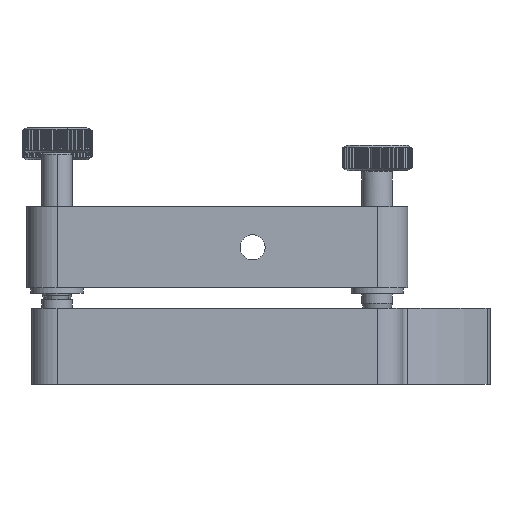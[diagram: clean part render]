
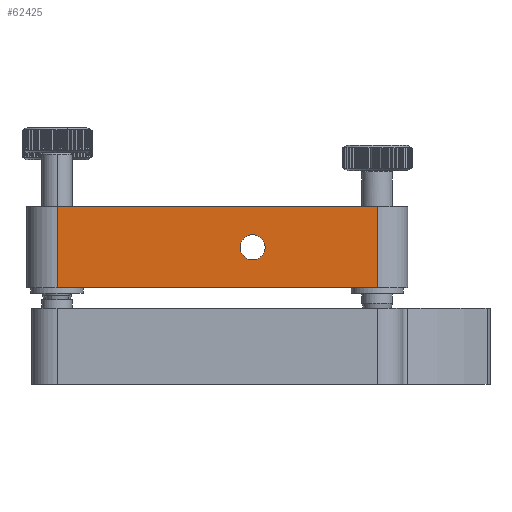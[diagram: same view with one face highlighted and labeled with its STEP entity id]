
A CAD part, front view. The second image highlights one B-rep face of the part: STEP entity #62425.
In plain terms, the highlighted planar face has unit normal (0, -1, 0).
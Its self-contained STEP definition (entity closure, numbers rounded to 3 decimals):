
#16588 = DIRECTION ( 'NONE',  ( -1., 0., 0. ) ) ;
#16590 = DIRECTION ( 'NONE',  ( 0., 1., 0. ) ) ;
#16592 = CARTESIAN_POINT ( 'NONE',  ( 22.426, -0.038, 8. ) ) ;
#16593 = AXIS2_PLACEMENT_3D ( 'NONE', #16592, #16590, #16588 ) ;
#16595 = CIRCLE ( 'NONE', #16593, 2.458 ) ;
#16731 = CARTESIAN_POINT ( 'NONE',  ( -16.074, -0.038, 16. ) ) ;
#16910 = DIRECTION ( 'NONE',  ( -1., 0., 0. ) ) ;
#16911 = VECTOR ( 'NONE', #16910, 1000. ) ;
#16912 = CARTESIAN_POINT ( 'NONE',  ( -10.074, -0.038, 16. ) ) ;
#16913 = LINE ( 'NONE', #16912, #16911 ) ;
#17239 = CARTESIAN_POINT ( 'NONE',  ( -16.074, -0.038, 0. ) ) ;
#17244 = DIRECTION ( 'NONE',  ( 1., 0., 0. ) ) ;
#17245 = DIRECTION ( 'NONE',  ( 0., -1., 0. ) ) ;
#17246 = CARTESIAN_POINT ( 'NONE',  ( -10.074, -0.038, 0. ) ) ;
#17247 = AXIS2_PLACEMENT_3D ( 'NONE', #17246, #17245, #17244 ) ;
#17248 = PLANE ( 'NONE',  #17247 ) ;
#17251 = FACE_BOUND ( 'NONE', #62391, .T. ) ;
#17253 = FACE_OUTER_BOUND ( 'NONE', #62427, .T. ) ;
#17471 = DIRECTION ( 'NONE',  ( 1., 0., 0. ) ) ;
#17472 = VECTOR ( 'NONE', #17471, 1000. ) ;
#17473 = CARTESIAN_POINT ( 'NONE',  ( -16.074, -0.038, 0. ) ) ;
#17474 = LINE ( 'NONE', #17473, #17472 ) ;
#17475 = DIRECTION ( 'NONE',  ( 0., 0., 1. ) ) ;
#17476 = VECTOR ( 'NONE', #17475, 1000. ) ;
#17478 = CARTESIAN_POINT ( 'NONE',  ( -16.074, -0.038, 0. ) ) ;
#17479 = LINE ( 'NONE', #17478, #17476 ) ;
#19864 = DIRECTION ( 'NONE',  ( 0., 0., -1. ) ) ;
#19865 = VECTOR ( 'NONE', #19864, 1000. ) ;
#19867 = CARTESIAN_POINT ( 'NONE',  ( 46.926, -0.038, 0. ) ) ;
#19868 = LINE ( 'NONE', #19867, #19865 ) ;
#19967 = CARTESIAN_POINT ( 'NONE',  ( 46.926, -0.038, 16. ) ) ;
#20717 = CARTESIAN_POINT ( 'NONE',  ( 46.926, -0.038, 0. ) ) ;
#23868 = CARTESIAN_POINT ( 'NONE',  ( 19.967, -0.038, 8. ) ) ;
#23869 = DIRECTION ( 'NONE',  ( -1., 0., 0. ) ) ;
#23870 = DIRECTION ( 'NONE',  ( 0., 1., 0. ) ) ;
#23871 = CARTESIAN_POINT ( 'NONE',  ( 22.426, -0.038, 8. ) ) ;
#23872 = AXIS2_PLACEMENT_3D ( 'NONE', #23871, #23870, #23869 ) ;
#23873 = CIRCLE ( 'NONE', #23872, 2.458 ) ;
#23875 = CARTESIAN_POINT ( 'NONE',  ( 24.884, -0.038, 8. ) ) ;
#36215 = VERTEX_POINT ( 'NONE', #23875 ) ;
#36218 = EDGE_CURVE ( 'NONE', #36215, #36220, #23873, .T. ) ;
#36220 = VERTEX_POINT ( 'NONE', #23868 ) ;
#62098 = EDGE_CURVE ( 'NONE', #36220, #36215, #16595, .T. ) ;
#62129 = VERTEX_POINT ( 'NONE', #16731 ) ;
#62216 = EDGE_CURVE ( 'NONE', #63428, #62129, #16913, .T. ) ;
#62391 = EDGE_LOOP ( 'NONE', ( #62392, #62394 ) ) ;
#62392 = ORIENTED_EDGE ( 'NONE', *, *, #62098, .T. ) ;
#62394 = ORIENTED_EDGE ( 'NONE', *, *, #36218, .T. ) ;
#62425 = ADVANCED_FACE ( 'NONE', ( #17253, #17251 ), #17248, .T. ) ;
#62427 = EDGE_LOOP ( 'NONE', ( #62428, #62431, #62519, #62523 ) ) ;
#62428 = ORIENTED_EDGE ( 'NONE', *, *, #63367, .F. ) ;
#62431 = ORIENTED_EDGE ( 'NONE', *, *, #62216, .T. ) ;
#62432 = VERTEX_POINT ( 'NONE', #17239 ) ;
#62519 = ORIENTED_EDGE ( 'NONE', *, *, #62521, .F. ) ;
#62521 = EDGE_CURVE ( 'NONE', #62432, #62129, #17479, .T. ) ;
#62523 = ORIENTED_EDGE ( 'NONE', *, *, #62525, .T. ) ;
#62525 = EDGE_CURVE ( 'NONE', #62432, #63626, #17474, .T. ) ;
#63367 = EDGE_CURVE ( 'NONE', #63428, #63626, #19868, .T. ) ;
#63428 = VERTEX_POINT ( 'NONE', #19967 ) ;
#63626 = VERTEX_POINT ( 'NONE', #20717 ) ;
